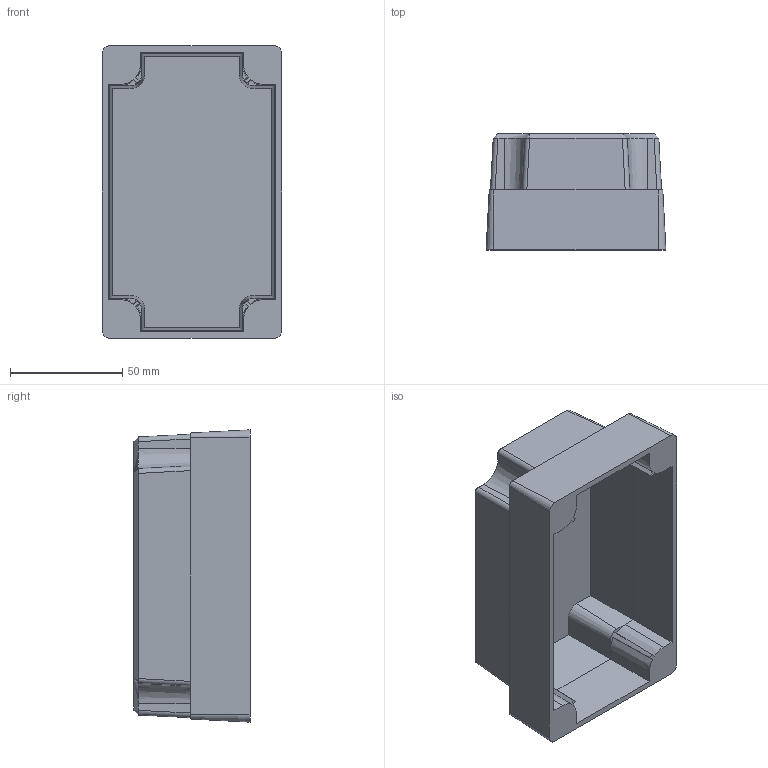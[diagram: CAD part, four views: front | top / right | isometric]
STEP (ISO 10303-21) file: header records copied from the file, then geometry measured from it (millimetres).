
FILE_DESCRIPTION (( 'STEP AP203' ), '1' );
FILE_NAME ('FIBOX_MNX10050C.STEP', '2005-06-30T06:53:38', ( ' ' ), ( ' ' ), 'SwSTEP 2.0', 'SolidWorks 2005143', '' );
FILE_SCHEMA (( 'CONFIG_CONTROL_DESIGN' ));
Length unit declared in the file: millimetre
Products named in the file (1): FIBOX_MNX10050C
Bounding box: 80 x 51.6 x 130 mm (x, y, z)
Volume: 72317.6 mm3; surface area: 59735.7 mm2
Topology: 1 solids, 1 shells, 119 faces, 320 edges, 210 vertices
Faces by surface type: plane 73, cone 24, cylinder 20, bspline 2
Entity records: 6512 total; most frequent: CARTESIAN_POINT 3517, ORIENTED_EDGE 640, DIRECTION 568, EDGE_CURVE 320, VERTEX_POINT 210, AXIS2_PLACEMENT_3D 194, VECTOR 180, LINE 180
